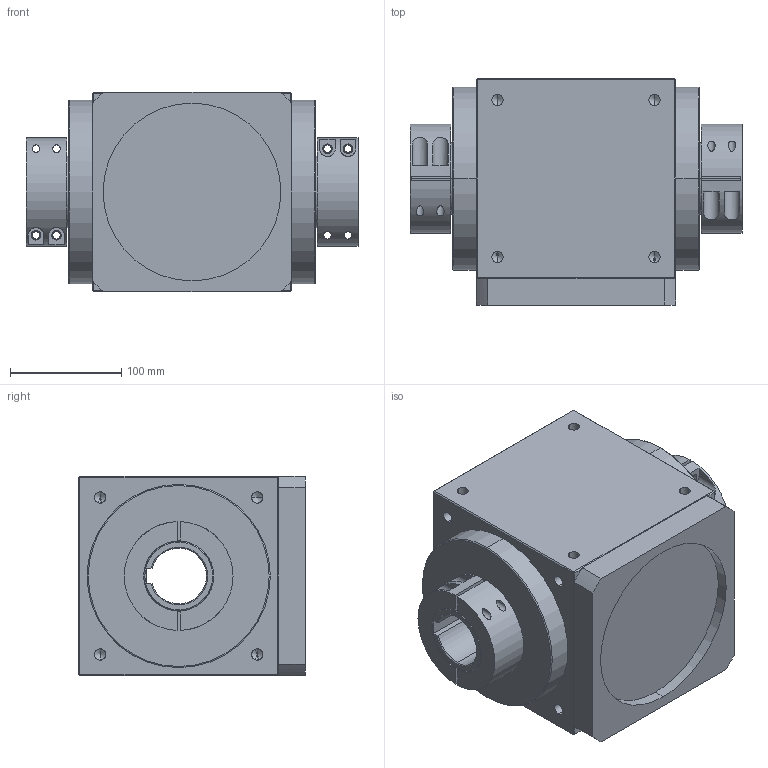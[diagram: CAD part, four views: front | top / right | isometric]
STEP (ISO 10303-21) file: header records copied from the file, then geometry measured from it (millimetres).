
FILE_DESCRIPTION (( 'STEP AP214' ), '1' );
FILE_NAME ('PAW180A-L1-2C-K(3-10) 35-114.3-200-M12.STEP', '2021-04-24T08:28:28', ( 'Microsoft' ), ( 'Microsoft China' ), 'SwSTEP 2.0', 'SolidWorks 2016', '' );
FILE_SCHEMA (( 'AUTOMOTIVE_DESIGN' ));
Length unit declared in the file: millimetre
Products named in the file (3): PAW180A-L1-2C-K(3-10) 35-114.3-200-M12; PAW180A-L1-L2-2C-K_1; 180標杶_1
Assembly tree (3 placements, depth 2):
  PAW180A-L1-2C-K(3-10) 35-114.3-200-M12
    PAW180A-L1-L2-2C-K_1
    180標杶_1  x2
Bounding box: 299 x 204 x 180 mm (x, y, z)
Volume: 7175008.5 mm3; surface area: 379462.7 mm2
Topology: 5 solids, 5 shells, 279 faces, 746 edges, 448 vertices
Faces by surface type: cylinder 137, plane 88, cone 50, torus 4
Entity records: 11580 total; most frequent: CARTESIAN_POINT 3219, ORIENTED_EDGE 1196, DIRECTION 1164, EDGE_CURVE 598, AXIS2_PLACEMENT_3D 445, VERTEX_POINT 376, EDGE_LOOP 284, VECTOR 274
